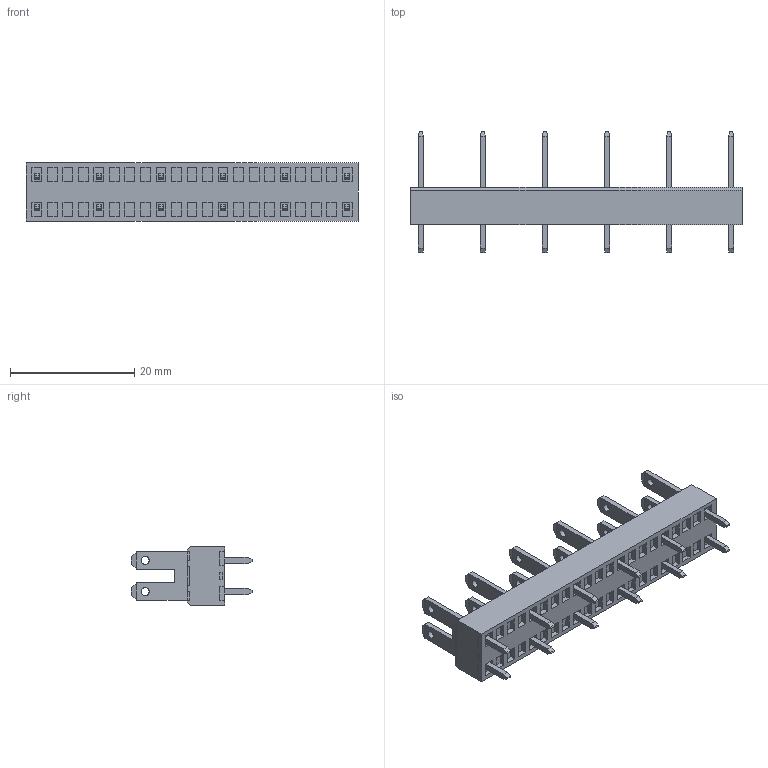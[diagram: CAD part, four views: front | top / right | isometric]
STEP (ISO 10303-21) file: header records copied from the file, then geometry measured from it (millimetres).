
FILE_DESCRIPTION (( 'STEP AP214' ), '1' );
FILE_NAME ('900-SH-10-06.STEP', '2007-11-04T01:41:53', ( ' ' ), ( '' ), 'SwSTEP 2.0', 'SolidWorks 2007', '' );
FILE_SCHEMA (( 'AUTOMOTIVE_DESIGN' ));
Length unit declared in the file: millimetre
Products named in the file (1): 900-SH-10-06
Bounding box: 53.5 x 19.5 x 9.4 mm (x, y, z)
Volume: 3107.4 mm3; surface area: 3308.3 mm2
Topology: 23 solids, 23 shells, 1041 faces, 2580 edges, 1660 vertices
Faces by surface type: plane 939, cylinder 102
Entity records: 30427 total; most frequent: CARTESIAN_POINT 5282, ORIENTED_EDGE 5160, DIRECTION 4868, EDGE_CURVE 2580, VECTOR 2376, LINE 2376, VERTEX_POINT 1660, AXIS2_PLACEMENT_3D 1246
